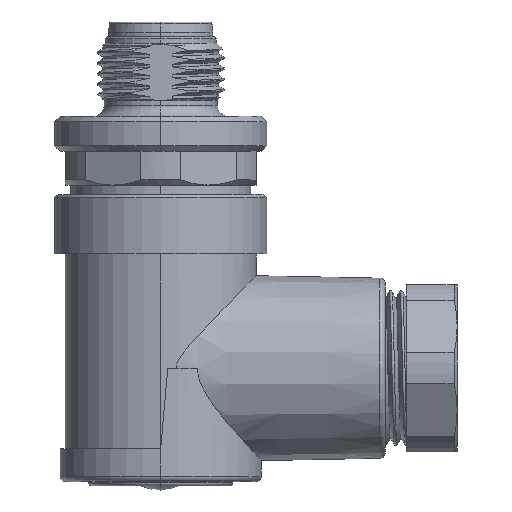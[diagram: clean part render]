
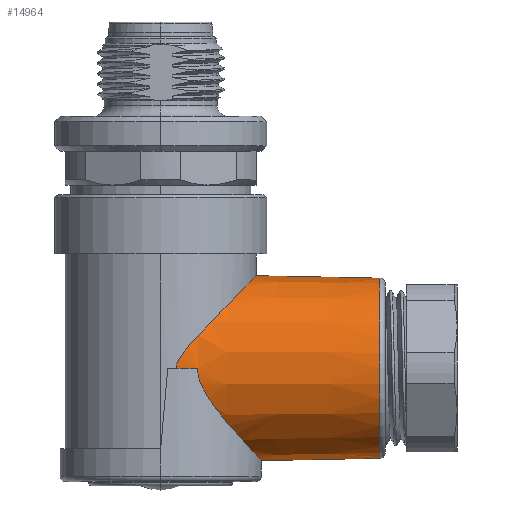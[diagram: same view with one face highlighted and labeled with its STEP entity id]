
A CAD part, left-side view. The second image highlights one B-rep face of the part: STEP entity #14964.
In plain terms, the highlighted conical face has half-angle 1.1 degrees and reference radius 8.694 mm.
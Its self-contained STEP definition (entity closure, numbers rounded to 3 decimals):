
#2864=CARTESIAN_POINT('',(0.,-9.,-23.966));
#2865=CARTESIAN_POINT('',(-0.162,-9.,-23.966));
#2866=CARTESIAN_POINT('',(-0.488,-8.991,
-23.975));
#2867=CARTESIAN_POINT('',(-0.98,-8.951,
-24.015));
#2868=CARTESIAN_POINT('',(-1.47,-8.884,
-24.083));
#2869=CARTESIAN_POINT('',(-1.962,-8.788,
-24.18));
#2870=CARTESIAN_POINT('',(-2.454,-8.664,
-24.306));
#2871=CARTESIAN_POINT('',(-2.944,-8.51,
-24.461));
#2872=CARTESIAN_POINT('',(-3.435,-8.324,
-24.65));
#2873=CARTESIAN_POINT('',(-3.926,-8.105,
-24.872));
#2874=CARTESIAN_POINT('',(-4.413,-7.851,
-25.13));
#2875=CARTESIAN_POINT('',(-4.896,-7.559,
-25.426));
#2876=CARTESIAN_POINT('',(-5.373,-7.228,
-25.762));
#2877=CARTESIAN_POINT('',(-5.838,-6.859,
-26.139));
#2878=CARTESIAN_POINT('',(-6.292,-6.445,
-26.561));
#2879=CARTESIAN_POINT('',(-6.731,-5.986,
-27.031));
#2880=CARTESIAN_POINT('',(-7.143,-5.487,
-27.544));
#2881=CARTESIAN_POINT('',(-7.498,-4.99,
-28.059));
#2882=CARTESIAN_POINT('',(-7.788,-4.521,
-28.547));
#2883=CARTESIAN_POINT('',(-8.022,-4.089,
-29.003));
#2884=CARTESIAN_POINT('',(-8.211,-3.692,
-29.427));
#2885=CARTESIAN_POINT('',(-8.363,-3.332,
-29.817));
#2886=CARTESIAN_POINT('',(-8.483,-3.011,
-30.174));
#2887=CARTESIAN_POINT('',(-8.579,-2.726,
-30.499));
#2888=CARTESIAN_POINT('',(-8.654,-2.475,
-30.796));
#2889=CARTESIAN_POINT('',(-8.714,-2.255,
-31.069));
#2890=CARTESIAN_POINT('',(-8.761,-2.064,
-31.321));
#2891=CARTESIAN_POINT('',(-8.798,-1.898,
-31.559));
#2892=CARTESIAN_POINT('',(-8.827,-1.757,
-31.787));
#2893=CARTESIAN_POINT('',(-8.849,-1.644,
-32.002));
#2894=CARTESIAN_POINT('',(-8.864,-1.562,
-32.198));
#2895=CARTESIAN_POINT('',(-8.873,-1.508,
-32.377));
#2896=CARTESIAN_POINT('',(-8.878,-1.478,
-32.542));
#2897=CARTESIAN_POINT('',(-8.879,-1.472,
-32.648));
#2898=CARTESIAN_POINT('',(-8.879,-1.472,-32.7));
#2959=DIRECTION('',(-0.019,1.,0.));
#2960=VECTOR('',#2959,2.007);
#2961=CARTESIAN_POINT('',(-8.84,-3.478,-32.7));
#2962=LINE('',#2961,#2960);
#2963=CARTESIAN_POINT('',(0.,-20.71,-32.7));
#2964=DIRECTION('',(0.,1.,0.));
#2965=DIRECTION('',(0.,0.,-1.));
#2966=AXIS2_PLACEMENT_3D('',#2963,#2964,#2965);
#2977=CARTESIAN_POINT('',(-8.84,-3.478,-32.7));
#2978=CARTESIAN_POINT('',(-8.84,-3.478,
-32.789));
#2979=CARTESIAN_POINT('',(-8.837,-3.486,
-32.971));
#2980=CARTESIAN_POINT('',(-8.824,-3.52,
-33.247));
#2981=CARTESIAN_POINT('',(-8.8,-3.578,
-33.536));
#2982=CARTESIAN_POINT('',(-8.764,-3.666,
-33.845));
#2983=CARTESIAN_POINT('',(-8.712,-3.79,
-34.182));
#2984=CARTESIAN_POINT('',(-8.637,-3.959,
-34.557));
#2985=CARTESIAN_POINT('',(-8.534,-4.176,
-34.968));
#2986=CARTESIAN_POINT('',(-8.397,-4.447,
-35.419));
#2987=CARTESIAN_POINT('',(-8.216,-4.776,
-35.912));
#2988=CARTESIAN_POINT('',(-7.975,-5.171,
-36.456));
#2989=CARTESIAN_POINT('',(-7.67,-5.615,
-37.029));
#2990=CARTESIAN_POINT('',(-7.321,-6.064,
-37.581));
#2991=CARTESIAN_POINT('',(-6.937,-6.5,
-38.099));
#2992=CARTESIAN_POINT('',(-6.526,-6.911,
-38.576));
#2993=CARTESIAN_POINT('',(-6.096,-7.294,
-39.01));
#2994=CARTESIAN_POINT('',(-5.651,-7.644,
-39.403));
#2995=CARTESIAN_POINT('',(-5.194,-7.961,
-39.754));
#2996=CARTESIAN_POINT('',(-4.73,-8.245,
-40.067));
#2997=CARTESIAN_POINT('',(-4.261,-8.496,
-40.342));
#2998=CARTESIAN_POINT('',(-3.788,-8.717,
-40.582));
#2999=CARTESIAN_POINT('',(-3.314,-8.908,
-40.788));
#3000=CARTESIAN_POINT('',(-2.839,-9.07,
-40.964));
#3001=CARTESIAN_POINT('',(-2.365,-9.205,
-41.109));
#3002=CARTESIAN_POINT('',(-1.891,-9.314,
-41.226));
#3003=CARTESIAN_POINT('',(-1.417,-9.398,
-41.315));
#3004=CARTESIAN_POINT('',(-0.944,-9.457,
-41.379));
#3005=CARTESIAN_POINT('',(-0.472,-9.492,
-41.416));
#3006=CARTESIAN_POINT('',(-0.157,-9.5,-41.425));
#3007=CARTESIAN_POINT('',(0.,-9.5,-41.425));
#3219=DIRECTION('',(0.,1.,-0.019));
#3220=VECTOR('',#3219,11.212);
#3221=CARTESIAN_POINT('',(0.,-20.71,-41.209));
#3222=LINE('',#3221,#3220);
#3228=DIRECTION('',(0.,1.,0.019));
#3229=VECTOR('',#3228,11.712);
#3230=CARTESIAN_POINT('',(0.,-20.71,-24.191));
#3231=LINE('',#3230,#3229);
#4918=CARTESIAN_POINT('',(0.,-20.71,-41.209));
#4919=CARTESIAN_POINT('',(0.,-9.5,-41.425));
#4920=VERTEX_POINT('',#4918);
#4921=VERTEX_POINT('',#4919);
#4922=CARTESIAN_POINT('',(0.,-20.71,-24.191));
#4923=CARTESIAN_POINT('',(0.,-9.,-23.966));
#4924=VERTEX_POINT('',#4922);
#4925=VERTEX_POINT('',#4923);
#4938=VERTEX_POINT('',#2898);
#4940=CARTESIAN_POINT('',(-8.84,-3.478,-32.7));
#4941=VERTEX_POINT('',#4940);
#14946=CARTESIAN_POINT('',(0.,-11.091,-32.7));
#14947=DIRECTION('',(0.,1.,0.));
#14948=DIRECTION('',(0.,0.,-1.));
#14949=AXIS2_PLACEMENT_3D('',#14946,#14947,#14948);
#14950=CONICAL_SURFACE('',#14949,8.694,1.1);
#14952=ORIENTED_EDGE('',*,*,#14951,.F.);
#14954=ORIENTED_EDGE('',*,*,#14953,.T.);
#14955=ORIENTED_EDGE('',*,*,#14929,.F.);
#14957=ORIENTED_EDGE('',*,*,#14956,.F.);
#14959=ORIENTED_EDGE('',*,*,#14958,.F.);
#14961=ORIENTED_EDGE('',*,*,#14960,.T.);
#14962=EDGE_LOOP('',(#14952,#14954,#14955,#14957,#14959,#14961));
#14963=FACE_OUTER_BOUND('',#14962,.F.);
#2899=B_SPLINE_CURVE_WITH_KNOTS('',3,(#2864,#2865,#2866,#2867,#2868,#2869,#2870,
#2871,#2872,#2873,#2874,#2875,#2876,#2877,#2878,#2879,#2880,#2881,#2882,#2883,
#2884,#2885,#2886,#2887,#2888,#2889,#2890,#2891,#2892,#2893,#2894,#2895,#2896,
#2897,#2898),.UNSPECIFIED.,.F.,.F.,(4,1,1,1,1,1,1,1,1,1,1,1,1,1,1,1,1,1,1,1,1,1,
1,1,1,1,1,1,1,1,1,1,4),(0.,0.031,0.063,0.094,0.125,0.156,
0.188,0.219,0.25,0.281,0.313,0.344,0.375,0.406,
0.438,0.469,0.5,0.531,0.563,0.594,0.625,0.656,
0.688,0.719,0.75,0.781,0.813,0.844,0.875,0.906,
0.938,0.969,1.),.UNSPECIFIED.);
#2967=CIRCLE('',#2966,8.509);
#3008=B_SPLINE_CURVE_WITH_KNOTS('',3,(#2977,#2978,#2979,#2980,#2981,#2982,#2983,
#2984,#2985,#2986,#2987,#2988,#2989,#2990,#2991,#2992,#2993,#2994,#2995,#2996,
#2997,#2998,#2999,#3000,#3001,#3002,#3003,#3004,#3005,#3006,#3007),
.UNSPECIFIED.,.F.,.F.,(4,1,1,1,1,1,1,1,1,1,1,1,1,1,1,1,1,1,1,1,1,1,1,1,1,1,1,1,
4),(0.,0.036,0.071,0.107,
0.143,0.179,0.214,0.25,0.286,
0.321,0.357,0.393,0.429,
0.464,0.5,0.536,0.571,0.607,
0.643,0.679,0.714,0.75,0.786,
0.821,0.857,0.893,0.929,
0.964,1.),.UNSPECIFIED.);
#14929=EDGE_CURVE('',#4925,#4938,#2899,.T.);
#14951=EDGE_CURVE('',#4941,#4921,#3008,.T.);
#14953=EDGE_CURVE('',#4941,#4938,#2962,.T.);
#14956=EDGE_CURVE('',#4924,#4925,#3231,.T.);
#14958=EDGE_CURVE('',#4920,#4924,#2967,.T.);
#14960=EDGE_CURVE('',#4920,#4921,#3222,.T.);
#14964=ADVANCED_FACE('',(#14963),#14950,.T.);
